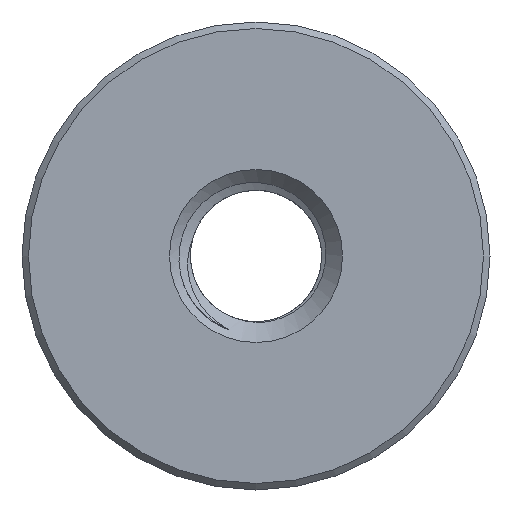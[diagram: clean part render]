
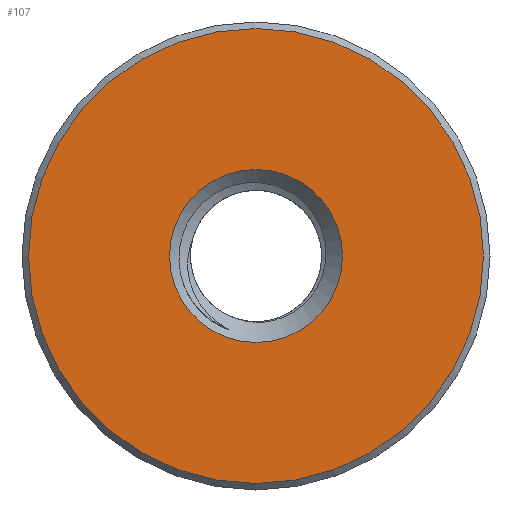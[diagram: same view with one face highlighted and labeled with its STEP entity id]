
A CAD part, left-side view. The second image highlights one B-rep face of the part: STEP entity #107.
In plain terms, the highlighted planar face has unit normal (-1, 0, 0).
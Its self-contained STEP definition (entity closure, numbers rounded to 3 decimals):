
#107=ADVANCED_FACE('',(#2975,#2977),#2979,.T.);
#2975=FACE_BOUND('',#2976,.T.);
#2976=EDGE_LOOP('',(#3440));
#2977=FACE_BOUND('',#2978,.T.);
#2978=EDGE_LOOP('',(#3441));
#2979=PLANE('',#2980);
#2980=AXIS2_PLACEMENT_3D('',#2981,#2982,#2983);
#2981=CARTESIAN_POINT('',(0.,0.,0.));
#2982=DIRECTION('',(-1.,0.,0.));
#2983=DIRECTION('',(0.,0.,-1.));
#3440=ORIENTED_EDGE('',*,*,#3493,.T.);
#3441=ORIENTED_EDGE('',*,*,#3481,.T.);
#3481=EDGE_CURVE('',#3524,#3524,#3525,.F.);
#3493=EDGE_CURVE('',#3544,#3544,#3545,.T.);
#3524=VERTEX_POINT('',#3855);
#3525=CIRCLE('',#3856,6.653);
#3544=VERTEX_POINT('',#4801);
#3545=CIRCLE('',#4802,17.5);
#3855=CARTESIAN_POINT('',(0.,0.,-6.653));
#3856=AXIS2_PLACEMENT_3D('',#3857,#3858,#3859);
#3857=CARTESIAN_POINT('',(0.,0.,0.));
#3858=DIRECTION('',(-1.,0.,0.));
#3859=DIRECTION('',(0.,0.,-1.));
#4801=CARTESIAN_POINT('',(0.,0.,-17.5));
#4802=AXIS2_PLACEMENT_3D('',#4803,#4804,#4805);
#4803=CARTESIAN_POINT('',(0.,0.,0.));
#4804=DIRECTION('',(-1.,0.,0.));
#4805=DIRECTION('',(0.,0.,-1.));
